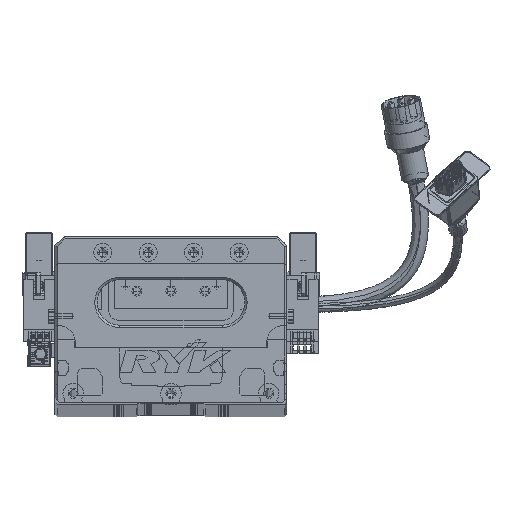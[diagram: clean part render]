
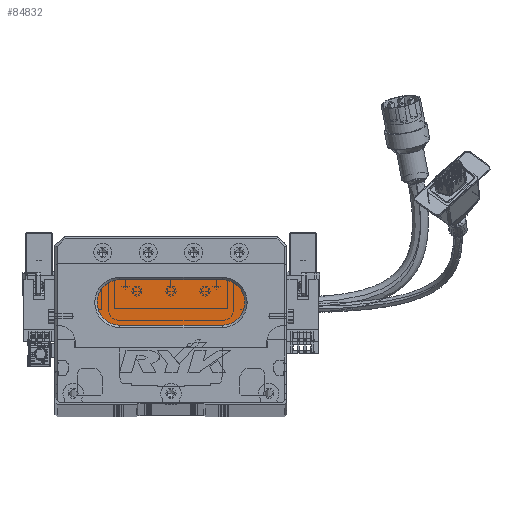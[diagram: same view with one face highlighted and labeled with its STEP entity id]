
A CAD part, top view. The second image highlights one B-rep face of the part: STEP entity #84832.
In plain terms, the highlighted planar face has unit normal (0, 0, 1) as drawn and (0, 0, -1) by its records, which use the part's own axes.
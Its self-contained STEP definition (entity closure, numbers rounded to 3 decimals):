
#548 = DIRECTION ( 'NONE',  ( 0., 0., -1. ) ) ;
#2421 = CARTESIAN_POINT ( 'NONE',  ( 73.5, 34., 13. ) ) ;
#4570 = EDGE_LOOP ( 'NONE', ( #22343, #51468, #10700, #9498, #60460 ) ) ;
#4793 = CARTESIAN_POINT ( 'NONE',  ( 18.5, 44., 13. ) ) ;
#7543 = DIRECTION ( 'NONE',  ( -1., 0., 0. ) ) ;
#9498 = ORIENTED_EDGE ( 'NONE', *, *, #30537, .T. ) ;
#10700 = ORIENTED_EDGE ( 'NONE', *, *, #42375, .T. ) ;
#14218 = CARTESIAN_POINT ( 'NONE',  ( 73.5, 44., 13. ) ) ;
#20046 = CIRCLE ( 'NONE', #64393, 10. ) ;
#22343 = ORIENTED_EDGE ( 'NONE', *, *, #28757, .T. ) ;
#22347 = CARTESIAN_POINT ( 'NONE',  ( 73.5, 34., 13. ) ) ;
#22376 = DIRECTION ( 'NONE',  ( -1., 0., 0. ) ) ;
#24878 = CIRCLE ( 'NONE', #82915, 10. ) ;
#28757 = EDGE_CURVE ( 'NONE', #35393, #34990, #83801, .T. ) ;
#29696 = DIRECTION ( 'NONE',  ( 0., 0., -1. ) ) ;
#30537 = EDGE_CURVE ( 'NONE', #84762, #63381, #24878, .T. ) ;
#31378 = DIRECTION ( 'NONE',  ( 0., 0., -1. ) ) ;
#31969 = CARTESIAN_POINT ( 'NONE',  ( 28.5, 44., 13. ) ) ;
#33644 = EDGE_CURVE ( 'NONE', #63381, #35393, #81731, .T. ) ;
#34990 = VERTEX_POINT ( 'NONE', #22347 ) ;
#35393 = VERTEX_POINT ( 'NONE', #72094 ) ;
#35424 = LINE ( 'NONE', #2421, #64858 ) ;
#37313 = DIRECTION ( 'NONE',  ( -1., 0., 0. ) ) ;
#42149 = FACE_OUTER_BOUND ( 'NONE', #4570, .T. ) ;
#42375 = EDGE_CURVE ( 'NONE', #65525, #84762, #20046, .T. ) ;
#42619 = AXIS2_PLACEMENT_3D ( 'NONE', #14218, #548, #7543 ) ;
#43409 = CARTESIAN_POINT ( 'NONE',  ( 73.5, 44., 13. ) ) ;
#46368 = AXIS2_PLACEMENT_3D ( 'NONE', #43409, #63184, #22376 ) ;
#51371 = DIRECTION ( 'NONE',  ( -1., 0., 0. ) ) ;
#51468 = ORIENTED_EDGE ( 'NONE', *, *, #86152, .T. ) ;
#55135 = CARTESIAN_POINT ( 'NONE',  ( 28.5, 54., 13. ) ) ;
#55441 = CARTESIAN_POINT ( 'NONE',  ( 73.5, 54., 13. ) ) ;
#60460 = ORIENTED_EDGE ( 'NONE', *, *, #33644, .T. ) ;
#61963 = CARTESIAN_POINT ( 'NONE',  ( 28.5, 34., 13. ) ) ;
#63032 = DIRECTION ( 'NONE',  ( 1., 0., 0. ) ) ;
#63184 = DIRECTION ( 'NONE',  ( 0., 0., -1. ) ) ;
#63381 = VERTEX_POINT ( 'NONE', #55135 ) ;
#64089 = PLANE ( 'NONE',  #46368 ) ;
#64393 = AXIS2_PLACEMENT_3D ( 'NONE', #31969, #31378, #86968 ) ;
#64858 = VECTOR ( 'NONE', #51371, 1000. ) ;
#65525 = VERTEX_POINT ( 'NONE', #61963 ) ;
#67626 = VECTOR ( 'NONE', #63032, 1000. ) ;
#71378 = CARTESIAN_POINT ( 'NONE',  ( 28.5, 44., 13. ) ) ;
#72094 = CARTESIAN_POINT ( 'NONE',  ( 73.5, 54., 13. ) ) ;
#81731 = LINE ( 'NONE', #55441, #67626 ) ;
#82915 = AXIS2_PLACEMENT_3D ( 'NONE', #71378, #29696, #37313 ) ;
#83801 = CIRCLE ( 'NONE', #42619, 10. ) ;
#84762 = VERTEX_POINT ( 'NONE', #4793 ) ;
#84832 = ADVANCED_FACE ( 'NONE', ( #42149 ), #64089, .T. ) ;
#86152 = EDGE_CURVE ( 'NONE', #34990, #65525, #35424, .T. ) ;
#86968 = DIRECTION ( 'NONE',  ( -1., 0., 0. ) ) ;
